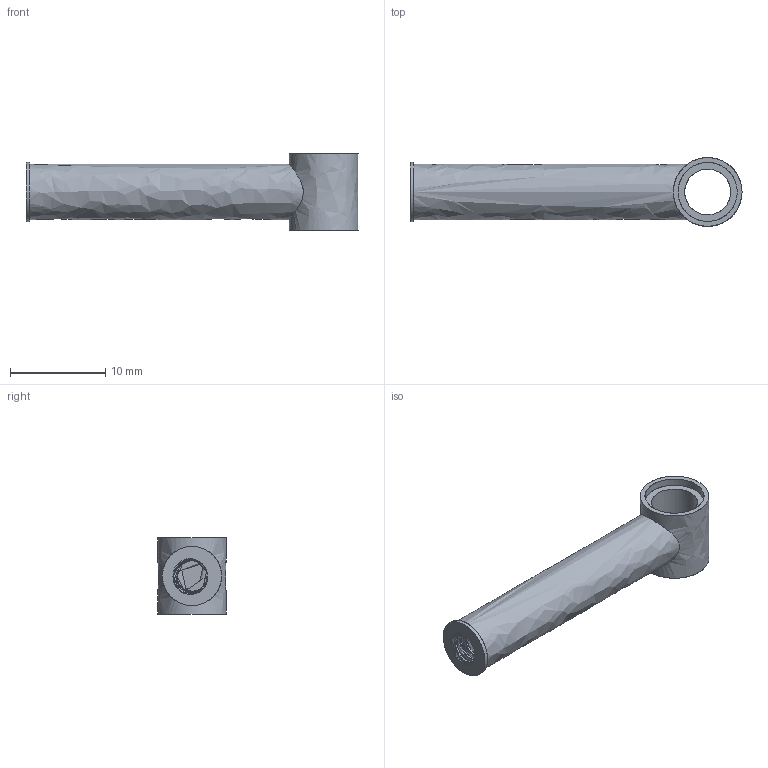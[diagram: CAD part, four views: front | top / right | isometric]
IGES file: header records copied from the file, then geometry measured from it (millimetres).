
Start section: C
Global section: file name: Gray_4612100_a)_AVV.iges; native system: By Siemens PLM Incorporated; preprocessor: XPlus GENERIC/IGES 26.1.183; author: Author; organization: Title; date: 20250722.000043; units: millimetre
Bounding box: 34.8 x 7.2 x 8 mm (x, y, z)
Surface area: 1382.6 mm2 (no closed solid volume)
Topology: 0 solids, 0 shells, 97 faces, 4660 edges, 4660 vertices
Faces by surface type: bspline 97
